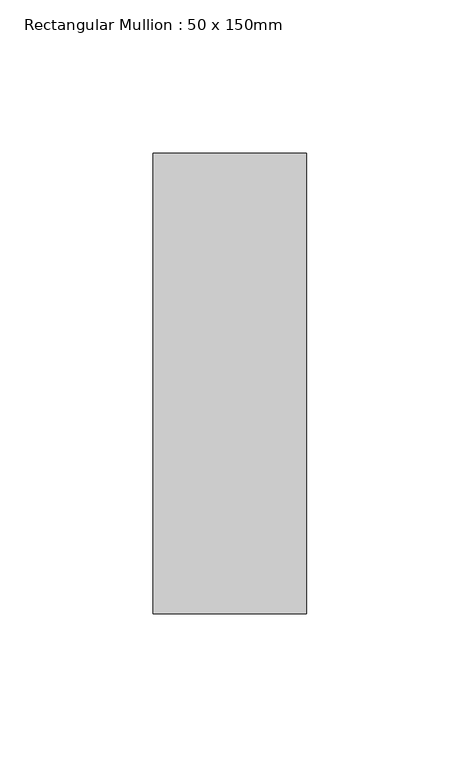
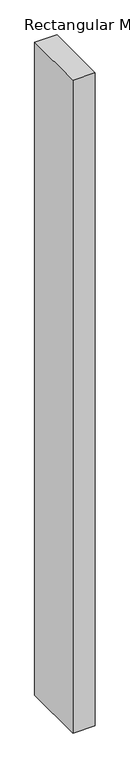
"""IFC4 building model written with IfcOpenShell, lengths in millimetres: member geometry, Rectangular Mullion : 50 x 150mm."""

from ifc_helpers import new_model, si_unit, frame, origin, place, context, project, spatial, polyline, outline, extrude, source, transform, mapped, element, save


def rectangular_mullion_50_x_150mm_cef6ab5d(model_context):
    return source(origin(), model_context, "Body", "SweptSolid", [
        extrude(outline(polyline([(0.0, 75.0), (0.0, -75.0), (-50.0, -75.0), (-50.0, 75.0), (0.0, 75.0)])), frame((0.0, 0.0, -1560.0), z_axis=(0.0, 0.0, 1.0), x_axis=(1.0, 0.0, 0.0)), (0.0, 0.0, 1.0), 1560.0),
    ])


if __name__ == "__main__":
    model = new_model("IFC4")
    model_context = context("Model", 3, world=origin())
    ifc_project = project(units=[si_unit("LENGTHUNIT", "METRE", prefix="MILLI")], contexts=[model_context])
    site = spatial("IfcSite", under=ifc_project)
    building = spatial("IfcBuilding", under=site)
    placement = place(None, origin())
    rectangular_mullion_50_x_150mm_shape = rectangular_mullion_50_x_150mm_cef6ab5d(model_context)
    element("IfcMember", 1, ObjectType="Rectangular Mullion : 50 x 150mm", at=placement, inside=building, context=model_context, shape_type="MappedRepresentation", body=[
        mapped(rectangular_mullion_50_x_150mm_shape, transform((0.0, 0.0, 0.0), x_axis=(1.0, 0.0, 0.0), y_axis=(0.0, 1.0, 0.0), z_axis=(0.0, 0.0, 1.0))),
    ])
    save(model, "model.ifc")
